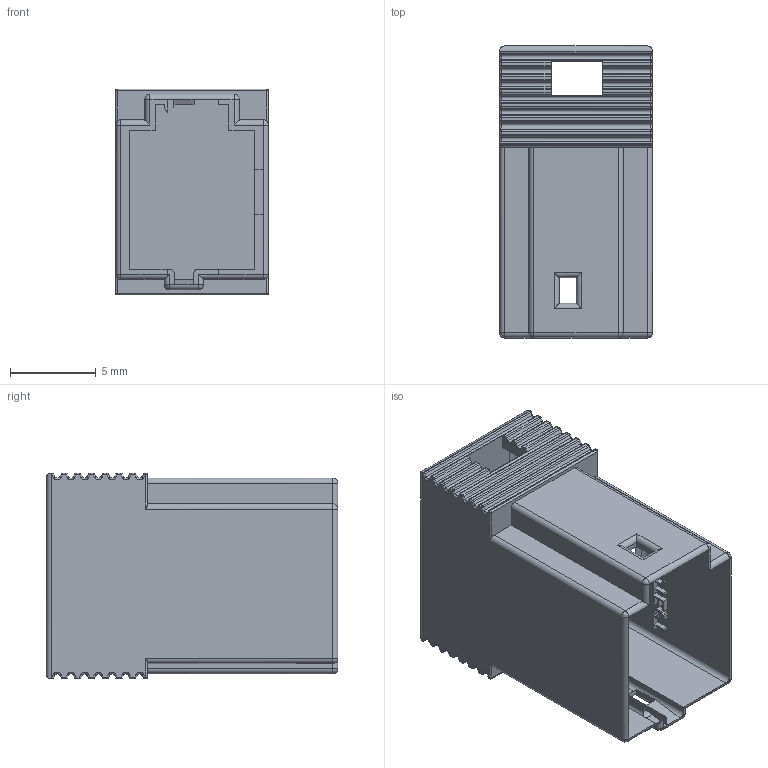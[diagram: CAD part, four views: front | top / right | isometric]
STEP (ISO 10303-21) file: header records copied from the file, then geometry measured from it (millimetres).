
FILE_DESCRIPTION(/* description */ (''),/* implementation_level */ '2;1');
FILE_NAME(/* name */ 'FBS-PACK',/* time_stamp */ '2021-06-10T14:16:09+08:00',/* author */ (''),/* organization */ (''),/* preprocessor_version */ 'ST-DEVELOPER v16.5',/* originating_system */ '',/* authorisation */ '');
FILE_SCHEMA (('CONFIG_CONTROL_DESIGN'));
Length unit declared in the file: millimetre
Products named in the file (1): Document
Bounding box: 8.9 x 17 x 12 mm (x, y, z)
Surface area: 962.7 mm2 (no closed solid volume)
Topology: 0 solids, 964 shells, 964 faces, 5021 edges, 5021 vertices
Faces by surface type: plane 690, cylinder 180, bspline 94
Entity records: 57232 total; most frequent: CARTESIAN_POINT 22518, ORIENTED_EDGE 5021, EDGE_CURVE 5021, VERTEX_POINT 5021, B_SPLINE_CURVE_WITH_KNOTS 4342, EDGE_LOOP 1002, SHELL_BASED_SURFACE_MODEL 964, OPEN_SHELL 964
